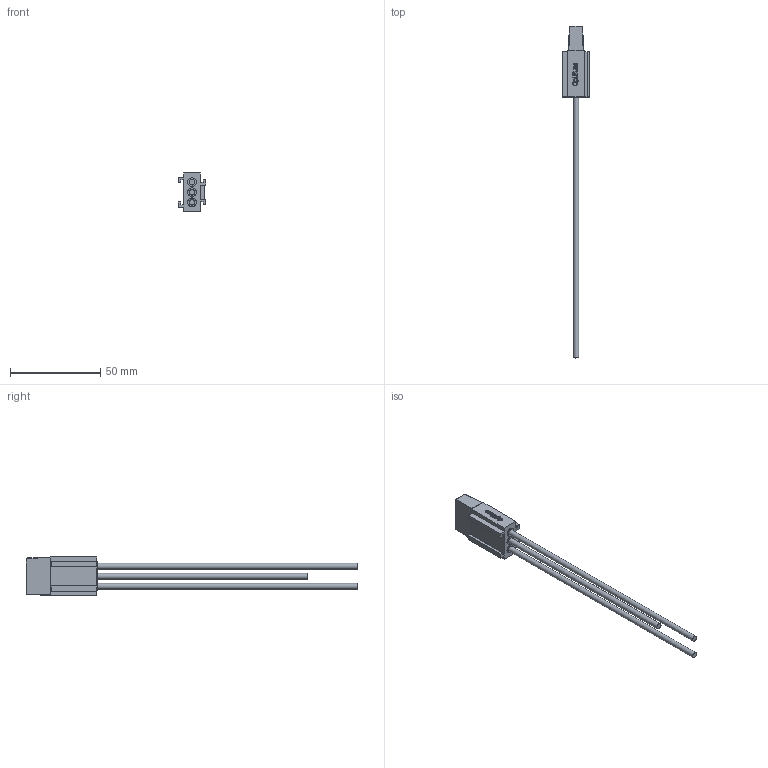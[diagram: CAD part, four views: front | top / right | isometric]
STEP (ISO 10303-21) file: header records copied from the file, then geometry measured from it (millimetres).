
FILE_DESCRIPTION(/* description */ (''),/* implementation_level */ '2;1');
FILE_NAME(/* name */ 'C:\Users\Hani\Desktop\work\LPK-01\LPK-01-W.stp',/* time_stamp */ '2021-07-10T15:17:32-07:00',/* author */ ('Hani'),/* organization */ (''),/* preprocessor_version */ 'ST-DEVELOPER v17',/* originating_system */ 'Autodesk Inventor 2019',/* authorisation */ '');
FILE_SCHEMA (('AUTOMOTIVE_DESIGN { 1 0 10303 214 3 1 1 }'));
Length unit declared in the file: inch
Products named in the file (3): LPK-01-W; housing-W; cover
Assembly tree (2 placements, depth 2):
  LPK-01-W
    housing-W
    cover
Bounding box: 15.49 x 184.15 x 21.59 mm (x, y, z)
Volume: 9989.4 mm3; surface area: 9289.8 mm2
Topology: 2 solids, 2 shells, 237 faces, 628 edges, 416 vertices
Faces by surface type: plane 152, bspline 71, cylinder 14
Full cylindrical faces by diameter (mm): 3.175 x3, 4.826 x3
Entity records: 8104 total; most frequent: CARTESIAN_POINT 2454, ORIENTED_EDGE 1256, DIRECTION 868, EDGE_CURVE 628, LINE 462, VECTOR 462, VERTEX_POINT 416, EDGE_LOOP 258
